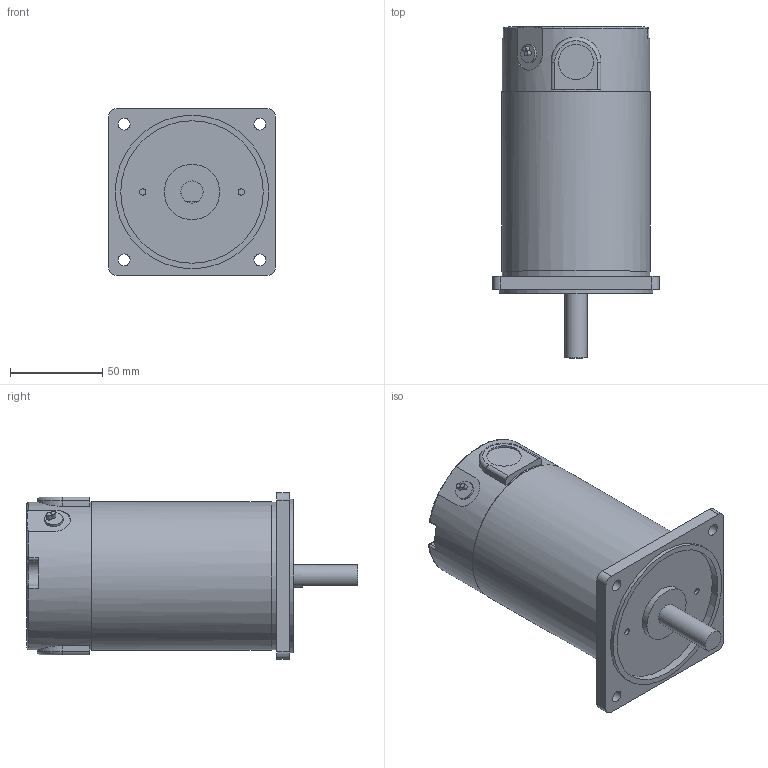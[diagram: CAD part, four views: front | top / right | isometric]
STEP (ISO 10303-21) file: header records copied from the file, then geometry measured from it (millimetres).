
FILE_DESCRIPTION((''),'2;1');
FILE_NAME('E:\2공장-도면\3D\표준형 3D(민규)\step\K9DS90N.stp','2014-11-06T16:41:49',('AHN'),(''),'Autodesk Inventor 2012','Autodesk Inventor 2012','');
FILE_SCHEMA(('CONFIG_CONTROL_DESIGN'));
Length unit declared in the file: millimetre
Products named in the file (1): K9DS90N
Bounding box: 90 x 179.5 x 90 mm (x, y, z)
Volume: 734643.6 mm3; surface area: 57485.1 mm2
Topology: 1 solids, 1 shells, 129 faces, 292 edges, 186 vertices
Faces by surface type: plane 63, cylinder 55, torus 7, sphere 4
Full cylindrical faces by diameter (mm): 2.6 x2, 3.4 x2, 6.5 x4, 10 x1, 12 x1, 19 x2, 30 x2, 77 x1, 80 x2, 80.1 x1, 83 x1
Entity records: 3628 total; most frequent: CARTESIAN_POINT 679, DIRECTION 650, ORIENTED_EDGE 540, EDGE_CURVE 270, AXIS2_PLACEMENT_3D 255, VERTEX_POINT 182, EDGE_LOOP 177, VECTOR 140
